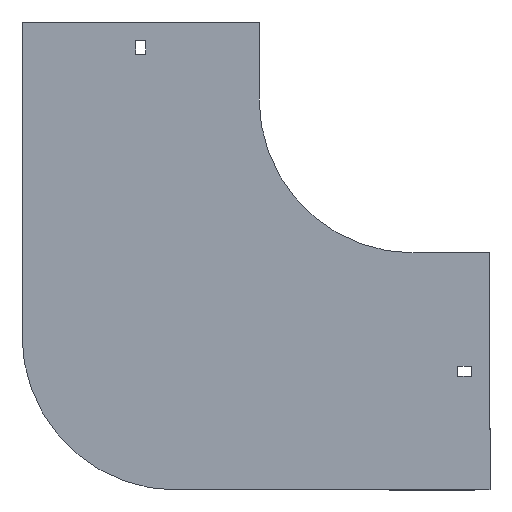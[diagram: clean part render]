
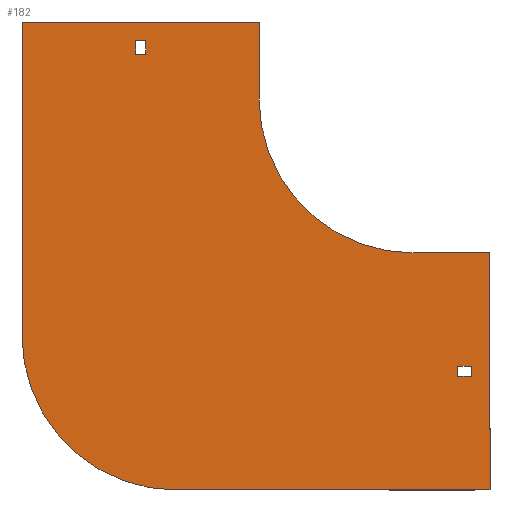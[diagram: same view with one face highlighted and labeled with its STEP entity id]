
A CAD part, front view. The second image highlights one B-rep face of the part: STEP entity #182.
In plain terms, the highlighted planar face has unit normal (0, -1, 0).
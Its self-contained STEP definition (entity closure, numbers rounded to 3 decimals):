
#5 = DIRECTION ( 'NONE',  ( 0., 0., 1. ) ) ;
#11 = LINE ( 'NONE', #181, #1353 ) ;
#32 = VERTEX_POINT ( 'NONE', #1357 ) ;
#46 = VECTOR ( 'NONE', #746, 1000. ) ;
#64 = ORIENTED_EDGE ( 'NONE', *, *, #870, .F. ) ;
#97 = EDGE_CURVE ( 'NONE', #675, #1927, #814, .T. ) ;
#106 = CARTESIAN_POINT ( 'NONE',  ( -100., 0., 50. ) ) ;
#114 = EDGE_CURVE ( 'NONE', #1741, #1879, #538, .T. ) ;
#145 = LINE ( 'NONE', #1786, #1907 ) ;
#164 = CARTESIAN_POINT ( 'NONE',  ( -100., 0., 50. ) ) ;
#181 = CARTESIAN_POINT ( 'NONE',  ( 0., 0., -100. ) ) ;
#182 = ADVANCED_FACE ( 'NONE', ( #720, #1322, #1187 ), #1775, .T. ) ;
#219 = EDGE_LOOP ( 'NONE', ( #1261, #1692, #265, #1269 ) ) ;
#221 = DIRECTION ( 'NONE',  ( 0., -1., 0. ) ) ;
#224 = ORIENTED_EDGE ( 'NONE', *, *, #944, .F. ) ;
#238 = CARTESIAN_POINT ( 'NONE',  ( 29., 0., -180.25 ) ) ;
#240 = VECTOR ( 'NONE', #479, 1000. ) ;
#242 = ORIENTED_EDGE ( 'NONE', *, *, #1853, .F. ) ;
#253 = EDGE_LOOP ( 'NONE', ( #859, #1342, #905, #1182 ) ) ;
#256 = CARTESIAN_POINT ( 'NONE',  ( -173.75, 0., 29. ) ) ;
#260 = CARTESIAN_POINT ( 'NONE',  ( 29., 0., -173.75 ) ) ;
#265 = ORIENTED_EDGE ( 'NONE', *, *, #546, .T. ) ;
#288 = VECTOR ( 'NONE', #664, 1000. ) ;
#304 = DIRECTION ( 'NONE',  ( 0., 0., 1. ) ) ;
#305 = VERTEX_POINT ( 'NONE', #735 ) ;
#310 = LINE ( 'NONE', #1808, #1040 ) ;
#347 = LINE ( 'NONE', #794, #288 ) ;
#357 = CARTESIAN_POINT ( 'NONE',  ( -254., 0., -154. ) ) ;
#388 = DIRECTION ( 'NONE',  ( -1., 0., 0. ) ) ;
#401 = EDGE_CURVE ( 'NONE', #1760, #1007, #347, .T. ) ;
#434 = CARTESIAN_POINT ( 'NONE',  ( 0., 0., 0. ) ) ;
#464 = CARTESIAN_POINT ( 'NONE',  ( -180.25, 0., 38. ) ) ;
#469 = CARTESIAN_POINT ( 'NONE',  ( 50., 0., -100. ) ) ;
#479 = DIRECTION ( 'NONE',  ( 0., 0., -1. ) ) ;
#504 = LINE ( 'NONE', #357, #1416 ) ;
#506 = VERTEX_POINT ( 'NONE', #1318 ) ;
#531 = ORIENTED_EDGE ( 'NONE', *, *, #97, .F. ) ;
#538 = LINE ( 'NONE', #1729, #1625 ) ;
#546 = EDGE_CURVE ( 'NONE', #1007, #506, #1013, .T. ) ;
#554 = LINE ( 'NONE', #1036, #700 ) ;
#555 = CARTESIAN_POINT ( 'NONE',  ( -173.75, 0., 38. ) ) ;
#614 = CARTESIAN_POINT ( 'NONE',  ( -254., 0., -154. ) ) ;
#664 = DIRECTION ( 'NONE',  ( 1., 0., 0. ) ) ;
#675 = VERTEX_POINT ( 'NONE', #1470 ) ;
#700 = VECTOR ( 'NONE', #1920, 1000. ) ;
#706 = EDGE_LOOP ( 'NONE', ( #224, #242, #64, #531, #1096, #1621, #1287, #974 ) ) ;
#720 = FACE_BOUND ( 'NONE', #219, .T. ) ;
#729 = DIRECTION ( 'NONE',  ( 0., -1., 0. ) ) ;
#735 = CARTESIAN_POINT ( 'NONE',  ( 29., 0., -180.25 ) ) ;
#746 = DIRECTION ( 'NONE',  ( 0., 0., 1. ) ) ;
#764 = DIRECTION ( 'NONE',  ( 1., 0., 0. ) ) ;
#794 = CARTESIAN_POINT ( 'NONE',  ( -180.25, 0., 38. ) ) ;
#805 = CIRCLE ( 'NONE', #1246, 100. ) ;
#814 = LINE ( 'NONE', #1714, #848 ) ;
#818 = CARTESIAN_POINT ( 'NONE',  ( -180.25, 0., 29. ) ) ;
#828 = DIRECTION ( 'NONE',  ( 0., 0., -1. ) ) ;
#848 = VECTOR ( 'NONE', #1191, 1000. ) ;
#857 = DIRECTION ( 'NONE',  ( 0., 0., -1. ) ) ;
#859 = ORIENTED_EDGE ( 'NONE', *, *, #1088, .F. ) ;
#870 = EDGE_CURVE ( 'NONE', #1927, #963, #805, .T. ) ;
#872 = VECTOR ( 'NONE', #1137, 1000. ) ;
#876 = EDGE_CURVE ( 'NONE', #967, #675, #145, .T. ) ;
#894 = VERTEX_POINT ( 'NONE', #1572 ) ;
#905 = ORIENTED_EDGE ( 'NONE', *, *, #1245, .F. ) ;
#944 = EDGE_CURVE ( 'NONE', #1617, #1665, #1712, .T. ) ;
#947 = VECTOR ( 'NONE', #857, 1000. ) ;
#963 = VERTEX_POINT ( 'NONE', #614 ) ;
#964 = DIRECTION ( 'NONE',  ( 0., 0., 1. ) ) ;
#967 = VERTEX_POINT ( 'NONE', #469 ) ;
#974 = ORIENTED_EDGE ( 'NONE', *, *, #1940, .F. ) ;
#1000 = CARTESIAN_POINT ( 'NONE',  ( 38., 0., -180.25 ) ) ;
#1007 = VERTEX_POINT ( 'NONE', #555 ) ;
#1013 = LINE ( 'NONE', #256, #947 ) ;
#1036 = CARTESIAN_POINT ( 'NONE',  ( 29., 0., -180.25 ) ) ;
#1040 = VECTOR ( 'NONE', #5, 1000. ) ;
#1042 = DIRECTION ( 'NONE',  ( 0., 1., 0. ) ) ;
#1088 = EDGE_CURVE ( 'NONE', #1543, #1741, #310, .T. ) ;
#1094 = VECTOR ( 'NONE', #1370, 1000. ) ;
#1096 = ORIENTED_EDGE ( 'NONE', *, *, #876, .F. ) ;
#1112 = LINE ( 'NONE', #818, #1094 ) ;
#1116 = EDGE_CURVE ( 'NONE', #1251, #1760, #1529, .T. ) ;
#1137 = DIRECTION ( 'NONE',  ( 1., 0., 0. ) ) ;
#1138 = CARTESIAN_POINT ( 'NONE',  ( -180.25, 0., 29. ) ) ;
#1148 = EDGE_CURVE ( 'NONE', #32, #967, #11, .T. ) ;
#1170 = CARTESIAN_POINT ( 'NONE',  ( -254., 0., 50. ) ) ;
#1182 = ORIENTED_EDGE ( 'NONE', *, *, #114, .F. ) ;
#1187 = FACE_BOUND ( 'NONE', #253, .T. ) ;
#1191 = DIRECTION ( 'NONE',  ( -1., 0., 0. ) ) ;
#1194 = EDGE_CURVE ( 'NONE', #506, #1251, #1112, .T. ) ;
#1235 = CARTESIAN_POINT ( 'NONE',  ( 38., 0., -173.75 ) ) ;
#1245 = EDGE_CURVE ( 'NONE', #1879, #305, #1380, .T. ) ;
#1246 = AXIS2_PLACEMENT_3D ( 'NONE', #1932, #1042, #304 ) ;
#1251 = VERTEX_POINT ( 'NONE', #1138 ) ;
#1261 = ORIENTED_EDGE ( 'NONE', *, *, #1116, .T. ) ;
#1269 = ORIENTED_EDGE ( 'NONE', *, *, #1194, .T. ) ;
#1287 = ORIENTED_EDGE ( 'NONE', *, *, #1799, .F. ) ;
#1318 = CARTESIAN_POINT ( 'NONE',  ( -173.75, 0., 29. ) ) ;
#1322 = FACE_OUTER_BOUND ( 'NONE', #706, .T. ) ;
#1330 = DIRECTION ( 'NONE',  ( 0., 0., -1. ) ) ;
#1342 = ORIENTED_EDGE ( 'NONE', *, *, #1590, .F. ) ;
#1353 = VECTOR ( 'NONE', #764, 1000. ) ;
#1357 = CARTESIAN_POINT ( 'NONE',  ( 0., 0., -100. ) ) ;
#1370 = DIRECTION ( 'NONE',  ( -1., 0., 0. ) ) ;
#1380 = LINE ( 'NONE', #238, #240 ) ;
#1416 = VECTOR ( 'NONE', #964, 1000. ) ;
#1438 = DIRECTION ( 'NONE',  ( 0., 0., -1. ) ) ;
#1470 = CARTESIAN_POINT ( 'NONE',  ( 50., 0., -254. ) ) ;
#1488 = CIRCLE ( 'NONE', #1735, 100. ) ;
#1529 = LINE ( 'NONE', #1939, #46 ) ;
#1543 = VERTEX_POINT ( 'NONE', #1000 ) ;
#1552 = VECTOR ( 'NONE', #1833, 1000. ) ;
#1558 = CARTESIAN_POINT ( 'NONE',  ( 0., 0., 0. ) ) ;
#1572 = CARTESIAN_POINT ( 'NONE',  ( -100., 0., 0. ) ) ;
#1573 = AXIS2_PLACEMENT_3D ( 'NONE', #434, #729, #1330 ) ;
#1590 = EDGE_CURVE ( 'NONE', #305, #1543, #554, .T. ) ;
#1617 = VERTEX_POINT ( 'NONE', #1170 ) ;
#1621 = ORIENTED_EDGE ( 'NONE', *, *, #1148, .F. ) ;
#1625 = VECTOR ( 'NONE', #388, 1000. ) ;
#1640 = CARTESIAN_POINT ( 'NONE',  ( -154., 0., -254. ) ) ;
#1665 = VERTEX_POINT ( 'NONE', #106 ) ;
#1692 = ORIENTED_EDGE ( 'NONE', *, *, #401, .T. ) ;
#1712 = LINE ( 'NONE', #1811, #872 ) ;
#1714 = CARTESIAN_POINT ( 'NONE',  ( 50., 0., -254. ) ) ;
#1729 = CARTESIAN_POINT ( 'NONE',  ( 29., 0., -173.75 ) ) ;
#1735 = AXIS2_PLACEMENT_3D ( 'NONE', #1558, #221, #828 ) ;
#1741 = VERTEX_POINT ( 'NONE', #1235 ) ;
#1760 = VERTEX_POINT ( 'NONE', #464 ) ;
#1775 = PLANE ( 'NONE',  #1573 ) ;
#1786 = CARTESIAN_POINT ( 'NONE',  ( 50., 0., -100. ) ) ;
#1799 = EDGE_CURVE ( 'NONE', #894, #32, #1488, .T. ) ;
#1808 = CARTESIAN_POINT ( 'NONE',  ( 38., 0., -180.25 ) ) ;
#1811 = CARTESIAN_POINT ( 'NONE',  ( -254., 0., 50. ) ) ;
#1833 = DIRECTION ( 'NONE',  ( 0., 0., -1. ) ) ;
#1842 = LINE ( 'NONE', #164, #1552 ) ;
#1853 = EDGE_CURVE ( 'NONE', #963, #1617, #504, .T. ) ;
#1879 = VERTEX_POINT ( 'NONE', #260 ) ;
#1907 = VECTOR ( 'NONE', #1438, 1000. ) ;
#1920 = DIRECTION ( 'NONE',  ( 1., 0., 0. ) ) ;
#1927 = VERTEX_POINT ( 'NONE', #1640 ) ;
#1932 = CARTESIAN_POINT ( 'NONE',  ( -154., 0., -154. ) ) ;
#1939 = CARTESIAN_POINT ( 'NONE',  ( -180.25, 0., 29. ) ) ;
#1940 = EDGE_CURVE ( 'NONE', #1665, #894, #1842, .T. ) ;
